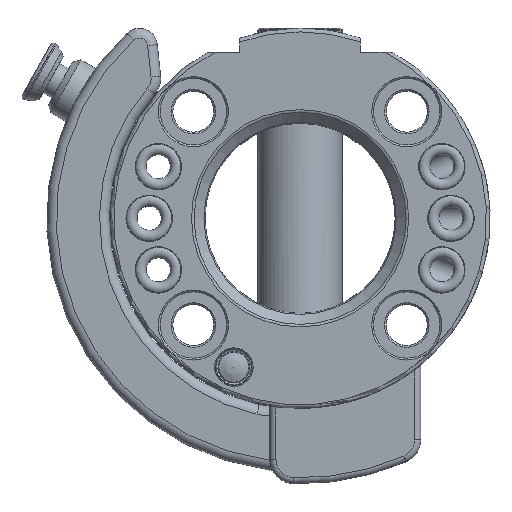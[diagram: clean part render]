
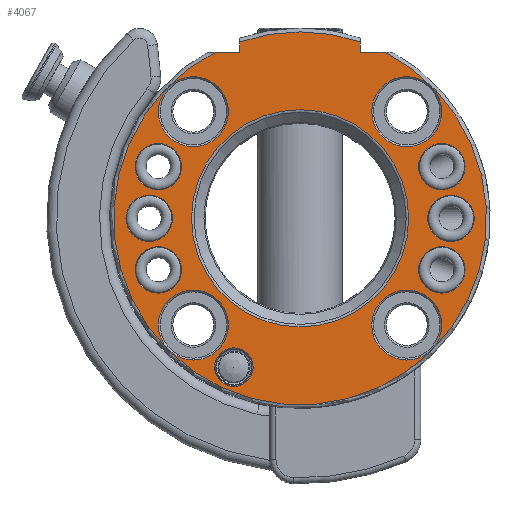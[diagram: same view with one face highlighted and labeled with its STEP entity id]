
A CAD part, front view. The second image highlights one B-rep face of the part: STEP entity #4067.
In plain terms, the highlighted planar face has unit normal (0, -1, 0).
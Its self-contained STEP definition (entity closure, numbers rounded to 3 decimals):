
#101=FACE_BOUND('',#605,.T.);
#102=FACE_BOUND('',#606,.T.);
#103=FACE_BOUND('',#607,.T.);
#104=FACE_BOUND('',#608,.T.);
#105=FACE_BOUND('',#609,.T.);
#106=FACE_BOUND('',#610,.T.);
#107=FACE_BOUND('',#611,.T.);
#108=FACE_BOUND('',#612,.T.);
#109=FACE_BOUND('',#613,.T.);
#110=FACE_BOUND('',#614,.T.);
#111=FACE_BOUND('',#615,.T.);
#112=FACE_BOUND('',#616,.T.);
#158=PLANE('',#4482);
#353=FACE_OUTER_BOUND('',#604,.T.);
#604=EDGE_LOOP('',(#2854,#2855,#2856,#2857,#2858,#2859));
#605=EDGE_LOOP('',(#2860));
#606=EDGE_LOOP('',(#2861));
#607=EDGE_LOOP('',(#2862));
#608=EDGE_LOOP('',(#2863));
#609=EDGE_LOOP('',(#2864));
#610=EDGE_LOOP('',(#2865,#2866));
#611=EDGE_LOOP('',(#2867));
#612=EDGE_LOOP('',(#2868));
#613=EDGE_LOOP('',(#2869));
#614=EDGE_LOOP('',(#2870));
#615=EDGE_LOOP('',(#2871));
#616=EDGE_LOOP('',(#2872));
#860=LINE('',#6929,#1020);
#861=LINE('',#6933,#1021);
#862=LINE('',#6935,#1022);
#863=LINE('',#6938,#1023);
#1020=VECTOR('',#5353,10.);
#1021=VECTOR('',#5356,10.);
#1022=VECTOR('',#5357,10.);
#1023=VECTOR('',#5360,10.);
#1288=CIRCLE('',#4481,3.2);
#1289=CIRCLE('',#4483,30.9);
#1290=CIRCLE('',#4484,30.9);
#1291=CIRCLE('',#4485,3.85);
#1292=CIRCLE('',#4486,3.85);
#1293=CIRCLE('',#4487,3.85);
#1294=CIRCLE('',#4488,5.8);
#1295=CIRCLE('',#4489,5.8);
#1296=CIRCLE('',#4490,17.999);
#1297=CIRCLE('',#4491,17.999);
#1298=CIRCLE('',#4492,5.8);
#1299=CIRCLE('',#4493,5.8);
#1300=CIRCLE('',#4494,3.85);
#1301=CIRCLE('',#4495,3.85);
#1302=CIRCLE('',#4496,3.85);
#1676=VERTEX_POINT('',#6923);
#1677=VERTEX_POINT('',#6927);
#1678=VERTEX_POINT('',#6928);
#1679=VERTEX_POINT('',#6930);
#1680=VERTEX_POINT('',#6932);
#1681=VERTEX_POINT('',#6934);
#1682=VERTEX_POINT('',#6936);
#1683=VERTEX_POINT('',#6939);
#1684=VERTEX_POINT('',#6941);
#1685=VERTEX_POINT('',#6943);
#1686=VERTEX_POINT('',#6945);
#1687=VERTEX_POINT('',#6947);
#1688=VERTEX_POINT('',#6949);
#1689=VERTEX_POINT('',#6950);
#1690=VERTEX_POINT('',#6953);
#1691=VERTEX_POINT('',#6955);
#1692=VERTEX_POINT('',#6957);
#1693=VERTEX_POINT('',#6959);
#1694=VERTEX_POINT('',#6961);
#2133=EDGE_CURVE('',#1676,#1676,#1288,.T.);
#2135=EDGE_CURVE('',#1677,#1678,#860,.T.);
#2136=EDGE_CURVE('',#1679,#1678,#1289,.T.);
#2137=EDGE_CURVE('',#1679,#1680,#861,.T.);
#2138=EDGE_CURVE('',#1680,#1681,#862,.T.);
#2139=EDGE_CURVE('',#1682,#1681,#1290,.T.);
#2140=EDGE_CURVE('',#1682,#1677,#863,.T.);
#2141=EDGE_CURVE('',#1683,#1683,#1291,.T.);
#2142=EDGE_CURVE('',#1684,#1684,#1292,.T.);
#2143=EDGE_CURVE('',#1685,#1685,#1293,.T.);
#2144=EDGE_CURVE('',#1686,#1686,#1294,.T.);
#2145=EDGE_CURVE('',#1687,#1687,#1295,.T.);
#2146=EDGE_CURVE('',#1688,#1689,#1296,.T.);
#2147=EDGE_CURVE('',#1689,#1688,#1297,.T.);
#2148=EDGE_CURVE('',#1690,#1690,#1298,.T.);
#2149=EDGE_CURVE('',#1691,#1691,#1299,.T.);
#2150=EDGE_CURVE('',#1692,#1692,#1300,.T.);
#2151=EDGE_CURVE('',#1693,#1693,#1301,.T.);
#2152=EDGE_CURVE('',#1694,#1694,#1302,.T.);
#2854=ORIENTED_EDGE('',*,*,#2135,.T.);
#2855=ORIENTED_EDGE('',*,*,#2136,.F.);
#2856=ORIENTED_EDGE('',*,*,#2137,.T.);
#2857=ORIENTED_EDGE('',*,*,#2138,.T.);
#2858=ORIENTED_EDGE('',*,*,#2139,.F.);
#2859=ORIENTED_EDGE('',*,*,#2140,.T.);
#2860=ORIENTED_EDGE('',*,*,#2141,.F.);
#2861=ORIENTED_EDGE('',*,*,#2142,.F.);
#2862=ORIENTED_EDGE('',*,*,#2143,.F.);
#2863=ORIENTED_EDGE('',*,*,#2144,.F.);
#2864=ORIENTED_EDGE('',*,*,#2145,.F.);
#2865=ORIENTED_EDGE('',*,*,#2146,.F.);
#2866=ORIENTED_EDGE('',*,*,#2147,.F.);
#2867=ORIENTED_EDGE('',*,*,#2148,.F.);
#2868=ORIENTED_EDGE('',*,*,#2149,.F.);
#2869=ORIENTED_EDGE('',*,*,#2150,.F.);
#2870=ORIENTED_EDGE('',*,*,#2151,.F.);
#2871=ORIENTED_EDGE('',*,*,#2152,.F.);
#2872=ORIENTED_EDGE('',*,*,#2133,.F.);
#4067=ADVANCED_FACE('',(#353,#101,#102,#103,#104,#105,#106,#107,#108,#109,
#110,#111,#112),#158,.T.);
#4481=AXIS2_PLACEMENT_3D('',#6924,#5348,#5349);
#4482=AXIS2_PLACEMENT_3D('',#6926,#5351,#5352);
#4483=AXIS2_PLACEMENT_3D('',#6931,#5354,#5355);
#4484=AXIS2_PLACEMENT_3D('',#6937,#5358,#5359);
#4485=AXIS2_PLACEMENT_3D('',#6940,#5361,#5362);
#4486=AXIS2_PLACEMENT_3D('',#6942,#5363,#5364);
#4487=AXIS2_PLACEMENT_3D('',#6944,#5365,#5366);
#4488=AXIS2_PLACEMENT_3D('',#6946,#5367,#5368);
#4489=AXIS2_PLACEMENT_3D('',#6948,#5369,#5370);
#4490=AXIS2_PLACEMENT_3D('',#6951,#5371,#5372);
#4491=AXIS2_PLACEMENT_3D('',#6952,#5373,#5374);
#4492=AXIS2_PLACEMENT_3D('',#6954,#5375,#5376);
#4493=AXIS2_PLACEMENT_3D('',#6956,#5377,#5378);
#4494=AXIS2_PLACEMENT_3D('',#6958,#5379,#5380);
#4495=AXIS2_PLACEMENT_3D('',#6960,#5381,#5382);
#4496=AXIS2_PLACEMENT_3D('',#6962,#5383,#5384);
#5348=DIRECTION('center_axis',(0.,-1.,0.));
#5349=DIRECTION('ref_axis',(1.,0.,0.));
#5351=DIRECTION('center_axis',(0.,-1.,0.));
#5352=DIRECTION('ref_axis',(0.,0.,-1.));
#5353=DIRECTION('',(-1.,0.,0.));
#5354=DIRECTION('center_axis',(0.,1.,0.));
#5355=DIRECTION('ref_axis',(1.,0.,0.));
#5356=DIRECTION('',(-1.,0.,0.));
#5357=DIRECTION('',(0.,0.,1.));
#5358=DIRECTION('center_axis',(0.,1.,0.));
#5359=DIRECTION('ref_axis',(1.,0.,0.));
#5360=DIRECTION('',(0.,0.,-1.));
#5361=DIRECTION('center_axis',(0.,-1.,0.));
#5362=DIRECTION('ref_axis',(-0.94,0.,0.342));
#5363=DIRECTION('center_axis',(0.,-1.,0.));
#5364=DIRECTION('ref_axis',(-0.94,0.,-0.342));
#5365=DIRECTION('center_axis',(0.,-1.,0.));
#5366=DIRECTION('ref_axis',(1.,0.,0.));
#5367=DIRECTION('center_axis',(0.,-1.,0.));
#5368=DIRECTION('ref_axis',(-1.,0.,0.));
#5369=DIRECTION('center_axis',(0.,-1.,0.));
#5370=DIRECTION('ref_axis',(-1.,0.,0.));
#5371=DIRECTION('center_axis',(0.,-1.,0.));
#5372=DIRECTION('ref_axis',(1.,0.,0.));
#5373=DIRECTION('center_axis',(0.,-1.,0.));
#5374=DIRECTION('ref_axis',(1.,0.,0.));
#5375=DIRECTION('center_axis',(0.,-1.,0.));
#5376=DIRECTION('ref_axis',(-1.,0.,0.));
#5377=DIRECTION('center_axis',(0.,-1.,0.));
#5378=DIRECTION('ref_axis',(-1.,0.,0.));
#5379=DIRECTION('center_axis',(0.,-1.,0.));
#5380=DIRECTION('ref_axis',(0.94,0.,-0.342));
#5381=DIRECTION('center_axis',(0.,-1.,0.));
#5382=DIRECTION('ref_axis',(0.94,0.,0.342));
#5383=DIRECTION('center_axis',(0.,-1.,0.));
#5384=DIRECTION('ref_axis',(-1.,0.,0.));
#6923=CARTESIAN_POINT('',(-14.182,0.,-24.666));
#6924=CARTESIAN_POINT('Origin',(-10.982,0.,
-24.666));
#6926=CARTESIAN_POINT('Origin',(-23.625,0.,0.));
#6927=CARTESIAN_POINT('',(-10.,0.,27.5));
#6928=CARTESIAN_POINT('',(-14.091,0.,27.5));
#6929=CARTESIAN_POINT('',(-23.286,0.,27.5));
#6930=CARTESIAN_POINT('',(14.091,0.,27.5));
#6931=CARTESIAN_POINT('Origin',(0.,0.,0.));
#6932=CARTESIAN_POINT('',(10.,0.,27.5));
#6933=CARTESIAN_POINT('',(-1.588,0.,27.5));
#6934=CARTESIAN_POINT('',(10.,0.,29.237));
#6935=CARTESIAN_POINT('',(10.,0.,15.75));
#6936=CARTESIAN_POINT('',(-10.,0.,29.237));
#6937=CARTESIAN_POINT('Origin',(0.,0.,0.));
#6938=CARTESIAN_POINT('',(-10.,0.,15.75));
#6939=CARTESIAN_POINT('',(-19.874,0.,7.234));
#6940=CARTESIAN_POINT('Origin',(-23.492,0.,
8.551));
#6941=CARTESIAN_POINT('',(-19.874,0.,-7.234));
#6942=CARTESIAN_POINT('Origin',(-23.492,0.,
-8.551));
#6943=CARTESIAN_POINT('',(21.15,0.,0.));
#6944=CARTESIAN_POINT('Origin',(25.,0.,0.));
#6945=CARTESIAN_POINT('',(-11.878,0.,-17.678));
#6946=CARTESIAN_POINT('Origin',(-17.678,0.,
-17.678));
#6947=CARTESIAN_POINT('',(23.478,0.,17.678));
#6948=CARTESIAN_POINT('Origin',(17.678,0.,
17.678));
#6949=CARTESIAN_POINT('',(-17.999,0.,0.));
#6950=CARTESIAN_POINT('',(0.,0.,17.999));
#6951=CARTESIAN_POINT('Origin',(0.,0.,0.));
#6952=CARTESIAN_POINT('Origin',(0.,0.,0.));
#6953=CARTESIAN_POINT('',(-11.878,0.,17.678));
#6954=CARTESIAN_POINT('Origin',(-17.678,0.,
17.678));
#6955=CARTESIAN_POINT('',(23.478,0.,-17.678));
#6956=CARTESIAN_POINT('Origin',(17.678,0.,
-17.678));
#6957=CARTESIAN_POINT('',(19.874,0.,-7.234));
#6958=CARTESIAN_POINT('Origin',(23.492,0.,
-8.551));
#6959=CARTESIAN_POINT('',(19.874,0.,7.234));
#6960=CARTESIAN_POINT('Origin',(23.492,0.,
8.551));
#6961=CARTESIAN_POINT('',(-21.15,0.,0.));
#6962=CARTESIAN_POINT('Origin',(-25.,0.,0.));
